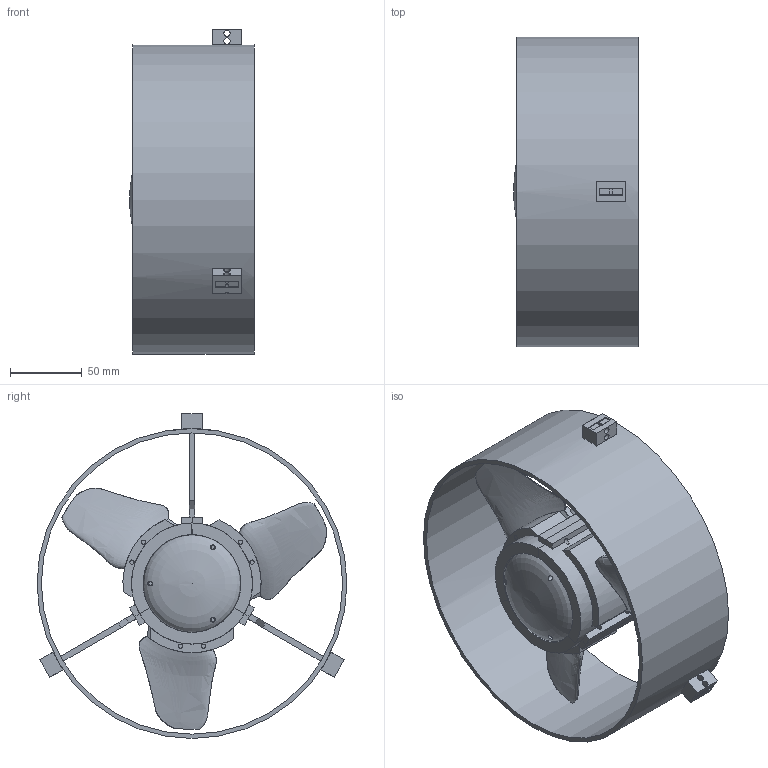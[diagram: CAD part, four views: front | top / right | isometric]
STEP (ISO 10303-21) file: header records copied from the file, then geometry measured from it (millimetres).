
FILE_DESCRIPTION(('Open CASCADE Model'),'2;1');
FILE_NAME('Open CASCADE Shape Model','2026-10-31T23:30:35',('Author'),( 'Open CASCADE'),'Open CASCADE STEP processor 7.9','Open CASCADE 7.9' ,'Unknown');
FILE_SCHEMA(('AUTOMOTIVE_DESIGN { 1 0 10303 214 1 1 1 1 }'));
Length unit declared in the file: millimetre
Products named in the file (47): v3_robust; tube; front_cap; rear_cap; oring_0; oring_1; oring_2; oring_3; spindle; bearing_front; bearing_rear; shim_rear; split_collar; speedi_sleeve; lip_seal; circlip_front; potting_plug; plug_oring; drive_disc; motor; boss; screw_stator_0; screw_disc_0; screw_stator_1; screw_disc_1; screw_stator_2; screw_disc_2; screw_stator_3; screw_disc_3; vent_screw; carrier_0; carrier_1; carrier_2; blade_0; pin_0_a; pin_0_b; blade_1; pin_1_a; pin_1_b; blade_2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
Assembly tree (46 placements, depth 2):
  v3_robust
    tube
    front_cap
    rear_cap
    oring_0
    oring_1
    oring_2
    oring_3
    spindle
    bearing_front
    bearing_rear
    shim_rear
    split_collar
    speedi_sleeve
    lip_seal
    circlip_front
    potting_plug
    plug_oring
    drive_disc
    motor
    boss
    screw_stator_0
    screw_disc_0
    screw_stator_1
    screw_disc_1
    screw_stator_2
    screw_disc_2
    screw_stator_3
    screw_disc_3
    vent_screw
    carrier_0
    carrier_1
    carrier_2
    blade_0
    pin_0_a
    pin_0_b
    blade_1
    pin_1_a
    pin_1_b
    blade_2
    pin_2_a
    pin_2_b
    dome
    strut_0
    strut_1
    strut_2
    duct
Bounding box: 86.8 x 216 x 226.5 mm (x, y, z)
Volume: 660642.5 mm3; surface area: 336127.6 mm2
Topology: 46 solids, 46 shells, 611 faces, 1453 edges, 965 vertices
Faces by surface type: plane 355, cylinder 214, bspline 36, torus 5, revolution 1
Full cylindrical faces by diameter (mm): 2.5 x3, 2.9 x8, 3 x27, 3.1 x10, 3.2 x12, 3.4 x11, 4.3 x15, 4.5 x2, 5 x1, 5.2 x1, 5.5 x8, 6.08 x1, 8 x4, 8.3 x4, 8.95 x2, 9 x1, 10 x1, 11 x1, 12 x1, 13.5 x2, 14.3 x2, 14.96 x1, 15 x7, 15.05 x1, 15.2 x1, 15.56 x1, 16 x1, 17.6 x2, 18 x1, 19 x1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
Entity records: 81477 total; most frequent: CARTESIAN_POINT 51333, DIRECTION 5215, ORIENTED_EDGE 2904, PCURVE 2904, DEFINITIONAL_REPRESENTATION 2904, LINE 2652, VECTOR 2652, EDGE_CURVE 1452
